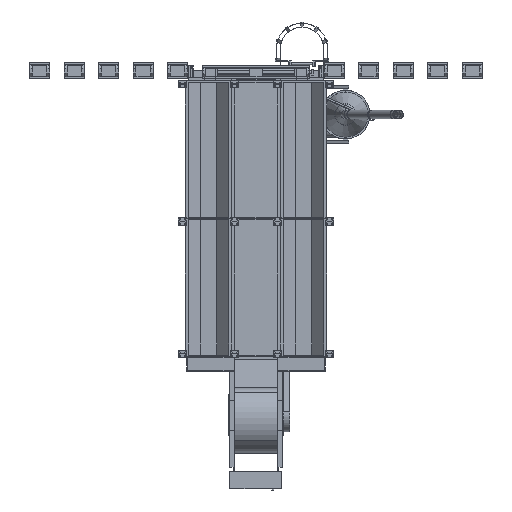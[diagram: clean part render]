
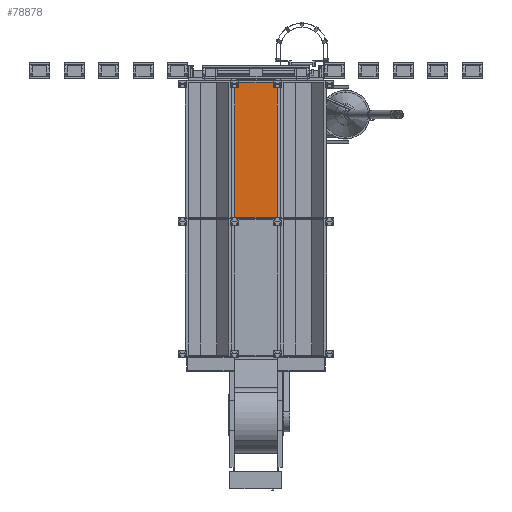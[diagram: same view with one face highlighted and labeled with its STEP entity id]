
A CAD part, front view. The second image highlights one B-rep face of the part: STEP entity #78878.
In plain terms, the highlighted planar face has unit normal (0, -1, 0) as drawn and (0, 0, -1) by its records, which use the part's own axes.
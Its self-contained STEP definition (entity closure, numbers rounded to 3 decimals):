
#4574=FACE_OUTER_BOUND('',#8629,.T.);
#8629=EDGE_LOOP('',(#52714,#52715,#52716,#52717));
#13511=LINE('',#111285,#23344);
#13514=LINE('',#111291,#23347);
#13580=LINE('',#111429,#23413);
#13581=LINE('',#111430,#23414);
#23344=VECTOR('',#89748,0.394);
#23347=VECTOR('',#89753,0.394);
#23413=VECTOR('',#89843,0.394);
#23414=VECTOR('',#89844,0.394);
#33106=VERTEX_POINT('',#111278);
#33109=VERTEX_POINT('',#111283);
#33110=VERTEX_POINT('',#111287);
#33171=VERTEX_POINT('',#111428);
#40791=EDGE_CURVE('',#33109,#33106,#13511,.T.);
#40794=EDGE_CURVE('',#33106,#33110,#13514,.T.);
#40860=EDGE_CURVE('',#33171,#33110,#13580,.T.);
#40861=EDGE_CURVE('',#33171,#33109,#13581,.T.);
#52714=ORIENTED_EDGE('',*,*,#40860,.T.);
#52715=ORIENTED_EDGE('',*,*,#40794,.F.);
#52716=ORIENTED_EDGE('',*,*,#40791,.F.);
#52717=ORIENTED_EDGE('',*,*,#40861,.F.);
#75599=PLANE('',#83645);
#78878=ADVANCED_FACE('',(#4574),#75599,.F.);
#83645=AXIS2_PLACEMENT_3D('',#111427,#89841,#89842);
#89748=DIRECTION('',(0.,-1.,0.));
#89753=DIRECTION('',(1.,0.,0.));
#89841=DIRECTION('center_axis',(0.,0.,1.));
#89842=DIRECTION('ref_axis',(1.,0.,0.));
#89843=DIRECTION('',(0.,-1.,0.));
#89844=DIRECTION('',(-1.,0.,0.));
#111278=CARTESIAN_POINT('',(-288.,-47.25,0.));
#111283=CARTESIAN_POINT('',(-288.,47.25,0.));
#111285=CARTESIAN_POINT('',(-288.,47.25,0.));
#111287=CARTESIAN_POINT('',(-192.004,-47.25,0.));
#111291=CARTESIAN_POINT('',(-288.,-47.25,0.));
#111427=CARTESIAN_POINT('Origin',(-144.,0.,0.));
#111428=CARTESIAN_POINT('',(-192.004,47.25,0.));
#111429=CARTESIAN_POINT('',(-192.004,2.638,0.));
#111430=CARTESIAN_POINT('',(0.,47.25,0.));
